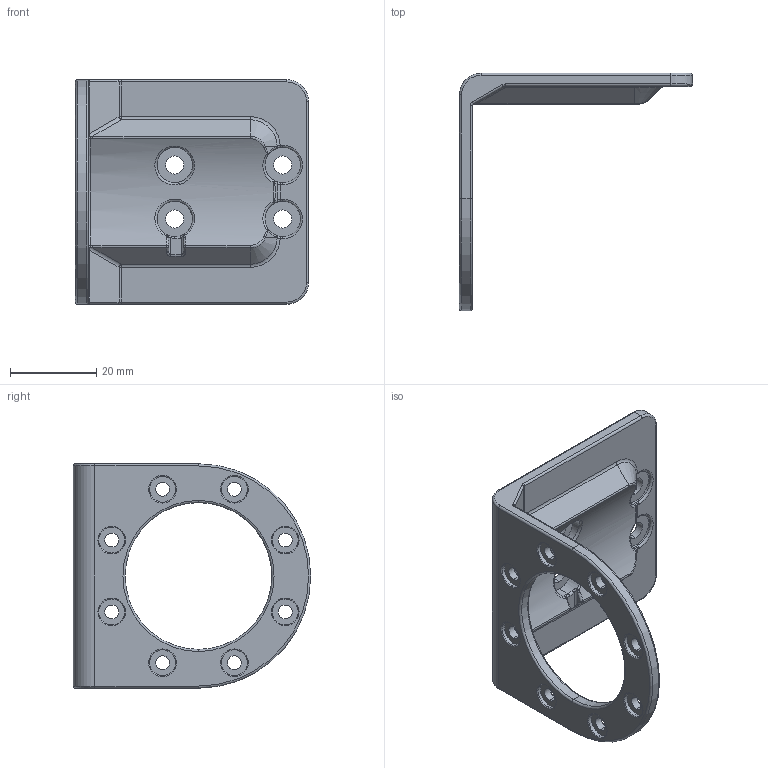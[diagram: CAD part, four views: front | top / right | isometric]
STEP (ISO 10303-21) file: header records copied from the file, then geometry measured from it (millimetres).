
FILE_DESCRIPTION (( 'STEP AP203' ), '1' );
FILE_NAME ('支撑座（单）2.STEP', '2025-06-02T07:22:41', ( '' ), ( '' ), 'SwSTEP 2.0', 'SolidWorks 2020', '' );
FILE_SCHEMA (( 'CONFIG_CONTROL_DESIGN' ));
Length unit declared in the file: millimetre
Products named in the file (1): 盓傅釱ㄗ等ㄘ2
Bounding box: 54 x 55 x 52 mm (x, y, z)
Volume: 14930.2 mm3; surface area: 9935.9 mm2
Topology: 1 solids, 1 shells, 226 faces, 516 edges, 297 vertices
Faces by surface type: cylinder 84, torus 69, bspline 32, plane 29, sphere 10, cone 2
Entity records: 7707 total; most frequent: CARTESIAN_POINT 2577, DIRECTION 1156, ORIENTED_EDGE 1020, AXIS2_PLACEMENT_3D 518, EDGE_CURVE 510, CIRCLE 323, VERTEX_POINT 295, EDGE_LOOP 261
